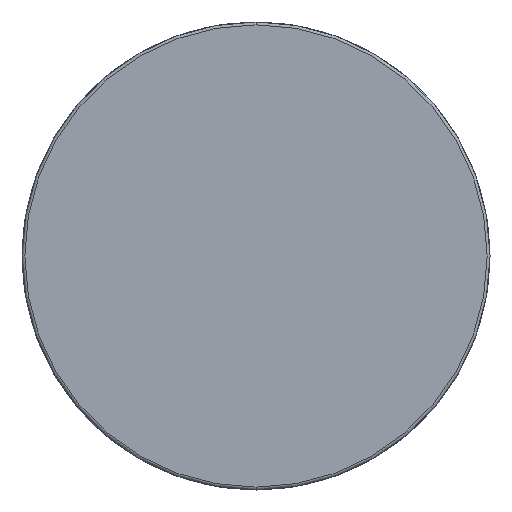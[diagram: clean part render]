
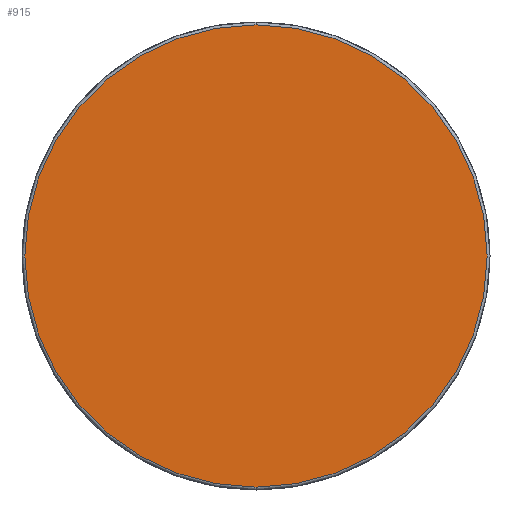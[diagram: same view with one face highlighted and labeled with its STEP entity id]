
A CAD part, front view. The second image highlights one B-rep face of the part: STEP entity #915.
In plain terms, the highlighted planar face has unit normal (0, -1, 0) as drawn and (-1, 0, 0) by its records, which use the part's own axes.
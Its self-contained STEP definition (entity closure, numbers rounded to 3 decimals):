
#250 = AXIS2_PLACEMENT_3D ( 'NONE', #3701, #3296, #3677 ) ;
#267 = VERTEX_POINT ( 'NONE', #4448 ) ;
#607 = PLANE ( 'NONE',  #1848 ) ;
#744 = VERTEX_POINT ( 'NONE', #1488 ) ;
#834 = EDGE_LOOP ( 'NONE', ( #2251, #3007 ) ) ;
#867 = CIRCLE ( 'NONE', #250, 40.5 ) ;
#915 = ADVANCED_FACE ( 'NONE', ( #4648 ), #607, .F. ) ;
#1007 = CARTESIAN_POINT ( 'NONE',  ( 0., 0., 0. ) ) ;
#1031 = EDGE_CURVE ( 'NONE', #267, #744, #867, .T. ) ;
#1333 = CIRCLE ( 'NONE', #4113, 40.5 ) ;
#1488 = CARTESIAN_POINT ( 'NONE',  ( 0., 0., 40.5 ) ) ;
#1723 = DIRECTION ( 'NONE',  ( 1., 0., 0. ) ) ;
#1848 = AXIS2_PLACEMENT_3D ( 'NONE', #1007, #1723, #2064 ) ;
#2064 = DIRECTION ( 'NONE',  ( 0., 0., -1. ) ) ;
#2251 = ORIENTED_EDGE ( 'NONE', *, *, #1031, .T. ) ;
#2337 = CARTESIAN_POINT ( 'NONE',  ( 0., 0., 0. ) ) ;
#2676 = DIRECTION ( 'NONE',  ( -1., 0., 0. ) ) ;
#3007 = ORIENTED_EDGE ( 'NONE', *, *, #4218, .T. ) ;
#3296 = DIRECTION ( 'NONE',  ( -1., 0., 0. ) ) ;
#3677 = DIRECTION ( 'NONE',  ( 0., 0., -1. ) ) ;
#3701 = CARTESIAN_POINT ( 'NONE',  ( 0., 0., 0. ) ) ;
#3784 = DIRECTION ( 'NONE',  ( 0., 0., -1. ) ) ;
#4113 = AXIS2_PLACEMENT_3D ( 'NONE', #2337, #2676, #3784 ) ;
#4218 = EDGE_CURVE ( 'NONE', #744, #267, #1333, .T. ) ;
#4448 = CARTESIAN_POINT ( 'NONE',  ( 0., 0., -40.5 ) ) ;
#4648 = FACE_OUTER_BOUND ( 'NONE', #834, .T. ) ;
